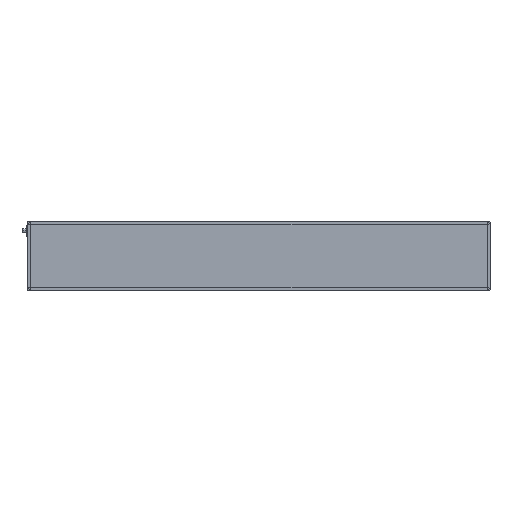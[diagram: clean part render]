
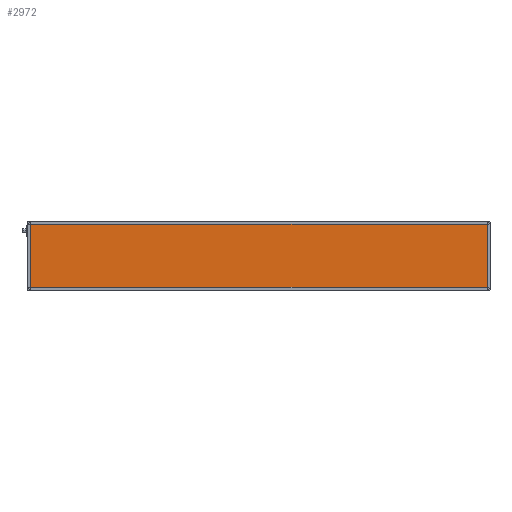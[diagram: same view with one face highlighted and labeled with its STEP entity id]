
A CAD part, top view. The second image highlights one B-rep face of the part: STEP entity #2972.
In plain terms, the highlighted planar face has unit normal (0, 0, 1).
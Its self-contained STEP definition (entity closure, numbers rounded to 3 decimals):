
#62 = ORIENTED_EDGE ( 'NONE', *, *, #2024, .T. ) ;
#122 = FACE_OUTER_BOUND ( 'NONE', #10999, .T. ) ;
#369 = CARTESIAN_POINT ( 'NONE',  ( 0., 4., 41.85 ) ) ;
#758 = VECTOR ( 'NONE', #12019, 1000. ) ;
#1859 = DIRECTION ( 'NONE',  ( -1., 0., 0. ) ) ;
#2024 = EDGE_CURVE ( 'NONE', #2858, #17069, #8307, .T. ) ;
#2679 = EDGE_CURVE ( 'NONE', #12005, #6928, #13479, .T. ) ;
#2770 = ORIENTED_EDGE ( 'NONE', *, *, #2679, .T. ) ;
#2785 = LINE ( 'NONE', #10798, #12710 ) ;
#2790 = LINE ( 'NONE', #6781, #758 ) ;
#2858 = VERTEX_POINT ( 'NONE', #14426 ) ;
#2972 = ADVANCED_FACE ( 'NONE', ( #122 ), #15171, .F. ) ;
#3267 = DIRECTION ( 'NONE',  ( -1., 0., 0. ) ) ;
#3668 = CARTESIAN_POINT ( 'NONE',  ( 1396., 196., 41.85 ) ) ;
#4394 = CARTESIAN_POINT ( 'NONE',  ( 4., 196., 41.85 ) ) ;
#6781 = CARTESIAN_POINT ( 'NONE',  ( 1396., 0., 41.85 ) ) ;
#6928 = VERTEX_POINT ( 'NONE', #4394 ) ;
#7349 = CARTESIAN_POINT ( 'NONE',  ( 0., 196., 41.85 ) ) ;
#7675 = CARTESIAN_POINT ( 'NONE',  ( 1396., 4., 41.85 ) ) ;
#8307 = LINE ( 'NONE', #369, #14625 ) ;
#8504 = AXIS2_PLACEMENT_3D ( 'NONE', #8730, #15272, #1859 ) ;
#8730 = CARTESIAN_POINT ( 'NONE',  ( 0., 0., 41.85 ) ) ;
#10464 = VECTOR ( 'NONE', #3267, 1000. ) ;
#10798 = CARTESIAN_POINT ( 'NONE',  ( 4., 0., 41.85 ) ) ;
#10999 = EDGE_LOOP ( 'NONE', ( #16976, #2770, #14512, #62 ) ) ;
#12005 = VERTEX_POINT ( 'NONE', #3668 ) ;
#12019 = DIRECTION ( 'NONE',  ( 0., 1., 0. ) ) ;
#12382 = EDGE_CURVE ( 'NONE', #17069, #12005, #2790, .T. ) ;
#12710 = VECTOR ( 'NONE', #14532, 1000. ) ;
#13479 = LINE ( 'NONE', #7349, #10464 ) ;
#14360 = EDGE_CURVE ( 'NONE', #6928, #2858, #2785, .T. ) ;
#14426 = CARTESIAN_POINT ( 'NONE',  ( 4., 4., 41.85 ) ) ;
#14512 = ORIENTED_EDGE ( 'NONE', *, *, #14360, .T. ) ;
#14532 = DIRECTION ( 'NONE',  ( 0., -1., 0. ) ) ;
#14625 = VECTOR ( 'NONE', #15975, 1000. ) ;
#15171 = PLANE ( 'NONE',  #8504 ) ;
#15272 = DIRECTION ( 'NONE',  ( 0., 0., -1. ) ) ;
#15975 = DIRECTION ( 'NONE',  ( 1., 0., 0. ) ) ;
#16976 = ORIENTED_EDGE ( 'NONE', *, *, #12382, .T. ) ;
#17069 = VERTEX_POINT ( 'NONE', #7675 ) ;
